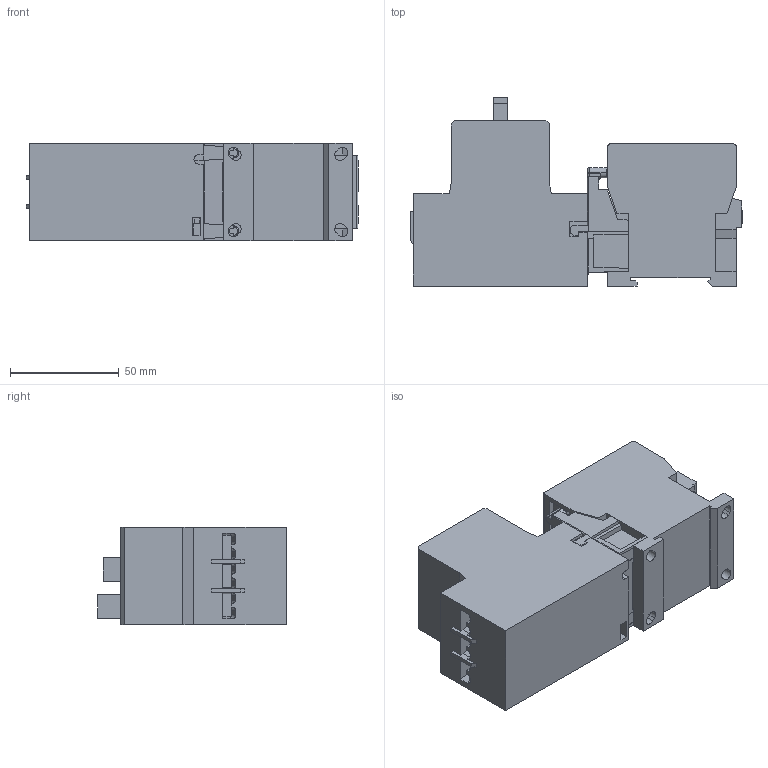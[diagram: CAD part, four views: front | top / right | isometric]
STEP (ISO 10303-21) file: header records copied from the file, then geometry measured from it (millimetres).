
FILE_DESCRIPTION (( 'STEP AP203' ), '1' );
FILE_NAME ('K3-10N + Verbinder + MU252A.STEP', '2013-07-02T04:49:46', ( 'edv' ), ( '' ), 'SwSTEP 2.0', 'SolidWorks 2013', '' );
FILE_SCHEMA (( 'CONFIG_CONTROL_DESIGN' ));
Length unit declared in the file: millimetre
Products named in the file (8): 65481_7 L11658; 65478_7 MU25A-VK3; MU25A; K3-10N + Verbinder + MU252A; K3-07_22N; 65478_7 MU25-P; 65479_7 L11656; 65480_7 L11657
Assembly tree (7 placements, depth 3):
  K3-10N + Verbinder + MU252A
    K3-07_22N
    65478_7 MU25A-VK3
      65478_7 MU25-P
      65479_7 L11656
      65480_7 L11657
      65481_7 L11658
    MU25A
Bounding box: 152.6 x 86.6 x 45 mm (x, y, z)
Volume: 368293.5 mm3; surface area: 66811 mm2
Topology: 6 solids, 6 shells, 1313 faces, 3588 edges, 2368 vertices
Faces by surface type: plane 852, bspline 227, cylinder 158, torus 37, cone 37, sphere 2
Entity records: 53551 total; most frequent: CARTESIAN_POINT 21141, ORIENTED_EDGE 7162, DIRECTION 5519, EDGE_CURVE 3581, VECTOR 2563, LINE 2563, VERTEX_POINT 2368, AXIS2_PLACEMENT_3D 1478
